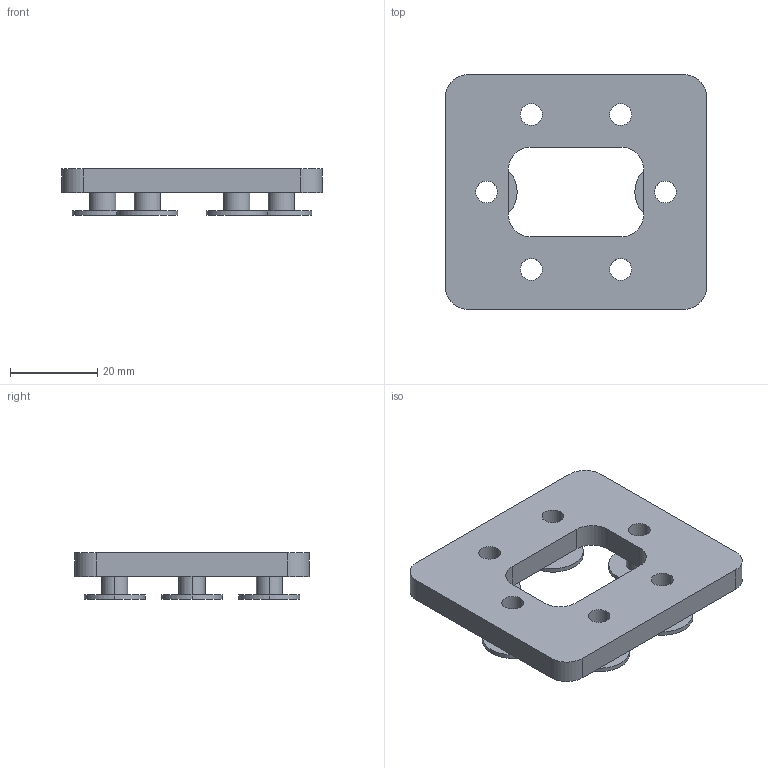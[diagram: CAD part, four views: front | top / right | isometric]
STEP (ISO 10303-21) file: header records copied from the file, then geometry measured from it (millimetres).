
FILE_DESCRIPTION (( 'STEP AP214' ), '1' );
FILE_NAME ('yoke & core²Õ¦X.STEP', '2026-06-02T13:09:15', ( '' ), ( '' ), 'SwSTEP 2.0', 'SolidWorks 2024', '' );
FILE_SCHEMA (( 'AUTOMOTIVE_DESIGN' ));
Length unit declared in the file: millimetre
Products named in the file (3): 襯套; YOKE; yoke & core組合
Assembly tree (7 placements, depth 2):
  yoke & core組合
    YOKE
    襯套  x6
Bounding box: 59.8 x 53.8 x 10.7 mm (x, y, z)
Volume: 14573.9 mm3; surface area: 10008.2 mm2
Topology: 7 solids, 7 shells, 84 faces, 192 edges, 128 vertices
Faces by surface type: cylinder 56, plane 28
Entity records: 1388 total; most frequent: DIRECTION 252, CARTESIAN_POINT 219, ORIENTED_EDGE 204, EDGE_CURVE 102, AXIS2_PLACEMENT_3D 101, VERTEX_POINT 68, EDGE_LOOP 56, CIRCLE 52
